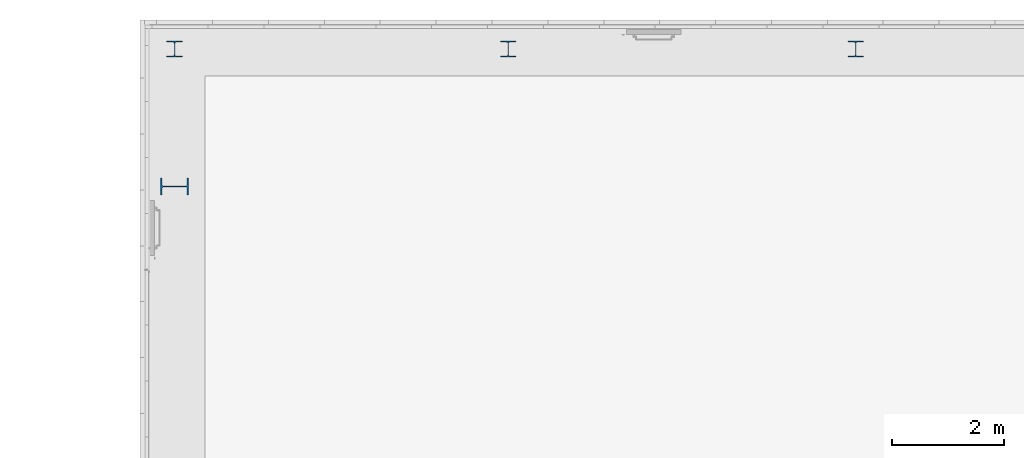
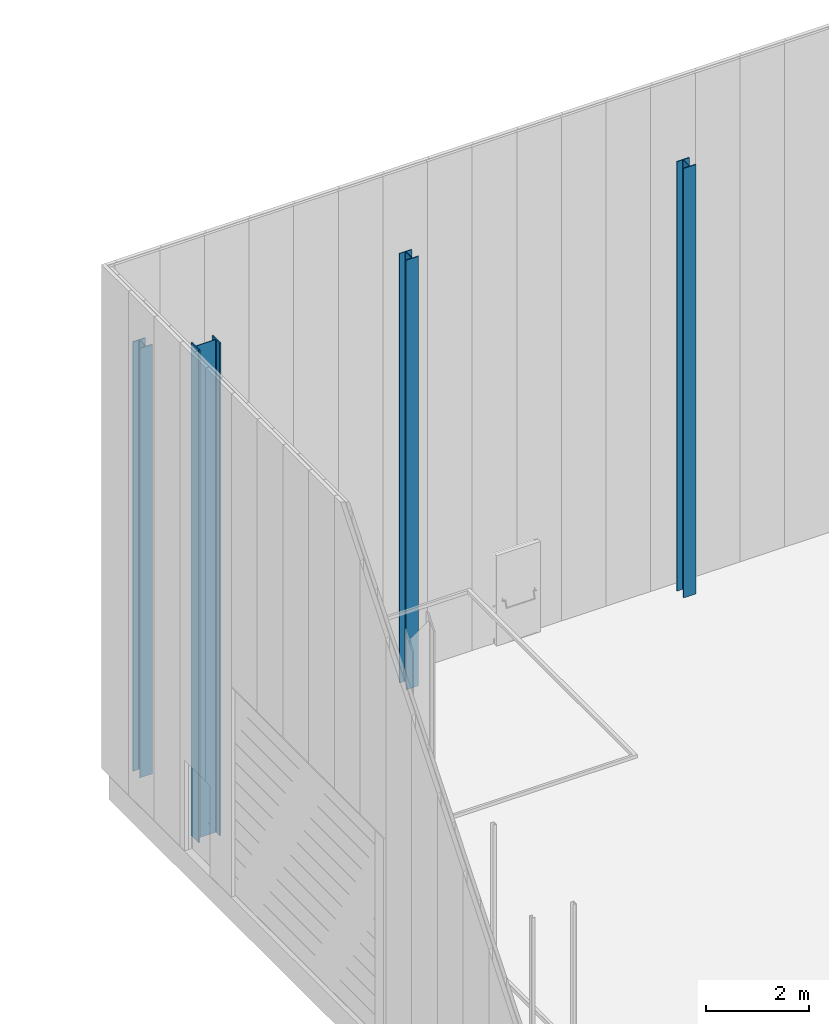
# One storey, part 42 of 302: 4 columns.
"""IFC2X3 building model written with IfcOpenShell, lengths in metres."""

from ifc_helpers import new_model, entity, si_unit, converted_unit, derived_unit, direction, frame, frame_2d, origin, place, context, subcontext, project, spatial, polyline, circle_curve, parameter, trimmed, segment, composite_curve, i_section, outline, extrude, source, transform, mapped, material, type_object, type_shapes, element, save


model = new_model("IFC2X3")

# Units and contexts
model_context = context("Model", 3, precision=1e-05, world=origin(), true_north=direction((6.12303176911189e-17, 1.0)))
body_context = subcontext(model_context, "Body", "Model", "MODEL_VIEW")
ifc_project = project(units=[si_unit("LENGTHUNIT", "METRE"), si_unit("AREAUNIT", "SQUARE_METRE"), si_unit("VOLUMEUNIT", "CUBIC_METRE"), converted_unit("PLANEANGLEUNIT", "DEGREE", entity("IfcRatioMeasure", 0.0174532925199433), si_unit("PLANEANGLEUNIT", "RADIAN"), dimensions=[0, 0, 0, 0, 0, 0, 0]), si_unit("MASSUNIT", "GRAM", prefix="KILO"), derived_unit("MASSDENSITYUNIT", [(si_unit("MASSUNIT", "GRAM", prefix="KILO"), 1), (si_unit("LENGTHUNIT", "METRE"), -3)]), derived_unit("MOMENTOFINERTIAUNIT", [(si_unit("LENGTHUNIT", "METRE"), 4)]), si_unit("TIMEUNIT", "SECOND"), si_unit("FREQUENCYUNIT", "HERTZ"), si_unit("THERMODYNAMICTEMPERATUREUNIT", "DEGREE_CELSIUS"), derived_unit("THERMALTRANSMITTANCEUNIT", [(si_unit("MASSUNIT", "GRAM", prefix="KILO"), 1), (si_unit("THERMODYNAMICTEMPERATUREUNIT", "KELVIN"), -1), (si_unit("TIMEUNIT", "SECOND"), -3)]), derived_unit("VOLUMETRICFLOWRATEUNIT", [(si_unit("LENGTHUNIT", "METRE"), 3), (si_unit("TIMEUNIT", "SECOND"), -1)]), si_unit("ELECTRICCURRENTUNIT", "AMPERE"), si_unit("ELECTRICVOLTAGEUNIT", "VOLT"), si_unit("POWERUNIT", "WATT"), si_unit("FORCEUNIT", "NEWTON", prefix="KILO"), si_unit("ILLUMINANCEUNIT", "LUX"), si_unit("LUMINOUSFLUXUNIT", "LUMEN"), si_unit("LUMINOUSINTENSITYUNIT", "CANDELA"), derived_unit("USERDEFINED", [(si_unit("MASSUNIT", "GRAM", prefix="KILO"), -1), (si_unit("LENGTHUNIT", "METRE"), -2), (si_unit("TIMEUNIT", "SECOND"), 3), (si_unit("LUMINOUSFLUXUNIT", "LUMEN"), 1)]), derived_unit("LINEARVELOCITYUNIT", [(si_unit("LENGTHUNIT", "METRE"), 1), (si_unit("TIMEUNIT", "SECOND"), -1)]), si_unit("PRESSUREUNIT", "PASCAL"), derived_unit("USERDEFINED", [(si_unit("LENGTHUNIT", "METRE"), -2), (si_unit("MASSUNIT", "GRAM", prefix="KILO"), 1), (si_unit("TIMEUNIT", "SECOND"), -2)]), derived_unit("LINEARFORCEUNIT", [(si_unit("MASSUNIT", "GRAM", prefix="KILO"), 1), (si_unit("LENGTHUNIT", "METRE"), 1), (si_unit("TIMEUNIT", "SECOND"), -2), (si_unit("LENGTHUNIT", "METRE"), -1)]), derived_unit("PLANARFORCEUNIT", [(si_unit("MASSUNIT", "GRAM", prefix="KILO"), 1), (si_unit("LENGTHUNIT", "METRE"), 1), (si_unit("TIMEUNIT", "SECOND"), -2), (si_unit("LENGTHUNIT", "METRE"), -2)])], contexts=[model_context])

# Site, building, storey
site_placement = place(None, origin())
site = spatial("IfcSite", under=ifc_project, at=site_placement, Name="Default", CompositionType="ELEMENT")
building_placement = place(site_placement, origin())
building = spatial("IfcBuilding", under=site, at=building_placement, CompositionType="ELEMENT")
storey_placement = place(building_placement, frame((0.0, 0.0, -1.3)))
storey = spatial("IfcBuildingStorey", under=building, at=storey_placement, Name="00_EG", CompositionType="ELEMENT", Elevation=-1.3)

# Columns
ifc_material = material(Name="Metall - Baustahl S235")
column_type_1 = type_object("IfcColumnType", Name="HEB Stütze:HEB 500", PredefinedType="COLUMN", material=ifc_material)
shared_shape_1 = source(origin(), body_context, "Body", "SweptSolid", [
    extrude(outline(composite_curve([segment(polyline([(0.222, -0.15), (0.25, -0.15)]), True, "CONTINUOUS"), segment(polyline([(0.25, -0.15), (0.25, 0.15)]), True, "CONTINUOUS"), segment(polyline([(0.25, 0.15), (0.222, 0.15)]), True, "CONTINUOUS"), segment(polyline([(0.222, 0.15), (0.222, 0.0342500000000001)]), True, "CONTINUOUS"), segment(trimmed(circle_curve(frame_2d((0.195, 0.0342500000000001), x_axis=(1.0, 0.0)), 0.0270000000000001), [parameter(270.0)], [parameter(0.0)], True, "PARAMETER"), False, "CONTINUOUS"), segment(polyline([(0.195, 0.00724999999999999), (-0.195, 0.00724999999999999)]), True, "CONTINUOUS"), segment(trimmed(circle_curve(frame_2d((-0.195, 0.03425), x_axis=(0.0, -1.0)), 0.027), [parameter(270.0)], [parameter(0.0)], True, "PARAMETER"), False, "CONTINUOUS"), segment(polyline([(-0.222, 0.0342500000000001), (-0.222, 0.15)]), True, "CONTINUOUS"), segment(polyline([(-0.222, 0.15), (-0.25, 0.15)]), True, "CONTINUOUS"), segment(polyline([(-0.25, 0.15), (-0.25, -0.15)]), True, "CONTINUOUS"), segment(polyline([(-0.25, -0.15), (-0.222, -0.15)]), True, "CONTINUOUS"), segment(polyline([(-0.222, -0.15), (-0.222, -0.03425)]), True, "CONTINUOUS"), segment(trimmed(circle_curve(frame_2d((-0.195, -0.03425), x_axis=(-1.0, 0.0)), 0.027), [parameter(269.999999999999)], [parameter(0.0)], True, "PARAMETER"), False, "CONTINUOUS"), segment(polyline([(-0.195, -0.00724999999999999), (0.195, -0.00724999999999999)]), True, "CONTINUOUS"), segment(trimmed(circle_curve(frame_2d((0.195, -0.03425), x_axis=(0.0, 1.0)), 0.027), [parameter(270.0)], [parameter(0.0)], True, "PARAMETER"), False, "CONTINUOUS"), segment(polyline([(0.222, -0.0342499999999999), (0.222, -0.15)]), True, "CONTINUOUS")], self_intersect=False)), frame((0.0, 0.0, -0.0300000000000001), z_axis=(0.0, 0.0, 1.0), x_axis=(0.0, -1.0, 0.0)), (0.0, 0.0, 1.0), 11.675),
])
type_shapes(column_type_1, [shared_shape_1])
column_placement = place(storey_placement, frame((-206.990111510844, 73.228088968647, 1.3), z_axis=(0.0, 0.0, 1.0), x_axis=(0.0, -1.0, 0.0)))
element("IfcColumn", 1, at=column_placement, inside=storey, type_object=column_type_1, material=ifc_material, Name="HEB Stütze:HEB 500", ObjectType="HEB Stütze:HEB 500", context=body_context, shape_type="MappedRepresentation", body=[
    mapped(shared_shape_1, transform((0.0, 0.0, 0.0), scale=1.0)),
])
column_type_2 = type_object("IfcColumnType", Name="HEB Stütze:HEB 280", PredefinedType="COLUMN", material=ifc_material)
shared_shape_2 = source(origin(), body_context, "Body", "SweptSolid", [
    extrude(i_section(OverallWidth=0.28, OverallDepth=0.28, WebThickness=0.0105, FlangeThickness=0.018, FilletRadius=0.024, at=frame_2d((0.0, -2.77555756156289e-17), x_axis=(0.0, 1.0))), frame((0.0, 0.0, -0.0300000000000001), z_axis=(0.0, 0.0, 1.0), x_axis=(0.0, -1.0, 0.0)), (0.0, 0.0, 1.0), 10.175),
])
type_shapes(column_type_2, [shared_shape_2])
for number, where, z_axis, x_axis in (
    (2, (-194.804575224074, 75.688088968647, 1.3), (0.0, 0.0, 1.0), (-1.0, 0.0, 0.0)),
    (3, (-201.022093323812, 75.6880889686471, 1.3), (0.0, 0.0, 1.0), (-1.0, 0.0, 0.0)),
    (4, (-206.990111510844, 75.6880889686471, 1.3), (0.0, 0.0, 1.0), (-1.0, 0.0, 0.0)),
):
    element("IfcColumn", number, at=place(storey_placement, frame(where, z_axis=z_axis, x_axis=x_axis)), inside=storey, type_object=column_type_2, material=ifc_material, Name="HEB Stütze:HEB 280", ObjectType="HEB Stütze:HEB 280", context=body_context, shape_type="MappedRepresentation", body=[
        mapped(shared_shape_2, transform((0.0, 0.0, 0.0), scale=1.0)),
    ])

save(model, "model.ifc")
